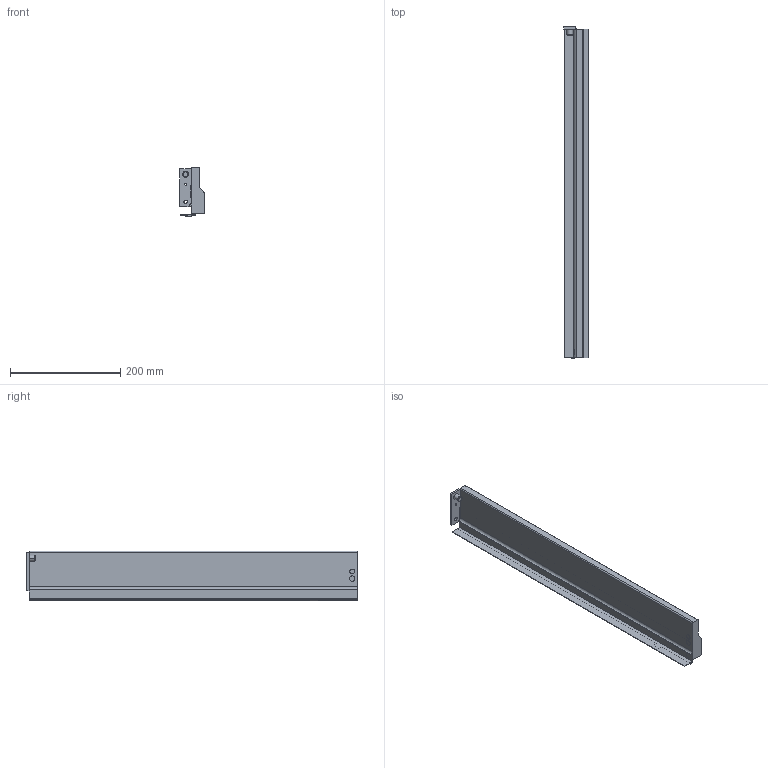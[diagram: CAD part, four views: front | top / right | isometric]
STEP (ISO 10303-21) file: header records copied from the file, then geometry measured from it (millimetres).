
FILE_DESCRIPTION (( 'STEP AP214' ), '1' );
FILE_NAME ('_IMOS_NOVA-Pro_Dekor-H90_CL_NL600_RE.step', '2010-07-06T09:00:29', ( 'grass' ), ( '' ), 'SwSTEP 2.0', 'SolidWorks 2009', '' );
FILE_SCHEMA (( 'AUTOMOTIVE_DESIGN' ));
Length unit declared in the file: millimetre
Products named in the file (1): _IMOS_NOVA-Pro_Dekor-H90_CL_NL600_RE
Bounding box: 44.3 x 602.7 x 90.49 mm (x, y, z)
Volume: 528465 mm3; surface area: 207015 mm2
Topology: 1 solids, 1 shells, 89 faces, 239 edges, 156 vertices
Faces by surface type: plane 57, cylinder 27, cone 4, bspline 1
Entity records: 2825 total; most frequent: CARTESIAN_POINT 506, ORIENTED_EDGE 478, DIRECTION 474, EDGE_CURVE 239, VECTOR 178, LINE 178, VERTEX_POINT 156, AXIS2_PLACEMENT_3D 148
